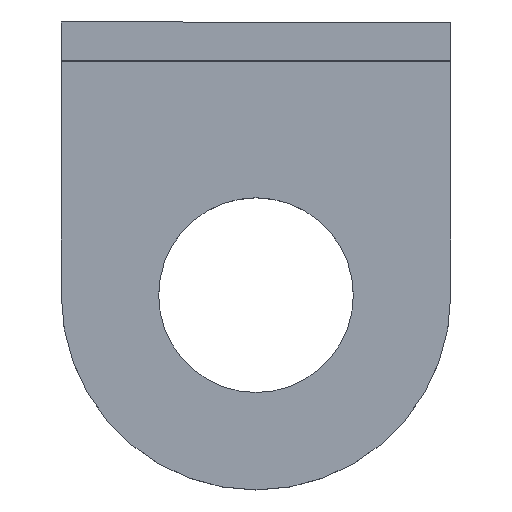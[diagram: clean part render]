
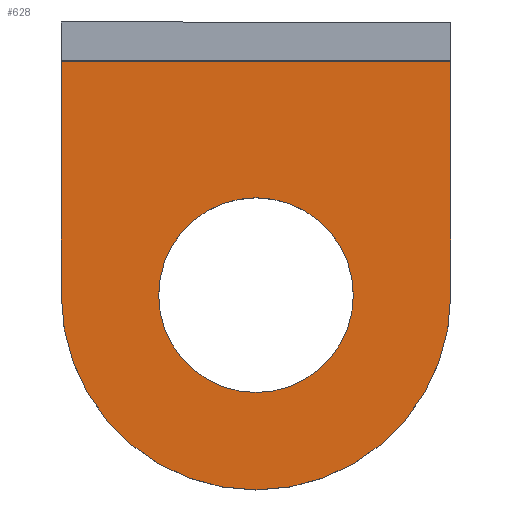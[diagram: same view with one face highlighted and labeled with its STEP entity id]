
A CAD part, top view. The second image highlights one B-rep face of the part: STEP entity #628.
In plain terms, the highlighted planar face has unit normal (0, 0, 1).
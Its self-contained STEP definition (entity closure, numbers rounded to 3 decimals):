
#132=CARTESIAN_POINT('',(-14.712,-53.306,18.75));
#133=VERTEX_POINT('',#132);
#149=CARTESIAN_POINT('',(-4.712,-43.306,18.75));
#150=VERTEX_POINT('',#149);
#157=CARTESIAN_POINT('',(-14.712,-43.306,18.75));
#158=DIRECTION('',(0.0,0.0,1.0));
#159=DIRECTION('',(0.0,-1.0,0.0));
#160=AXIS2_PLACEMENT_3D('',#157,#158,#159);
#161=CIRCLE('',#160,10.0);
#162=EDGE_CURVE('',#133,#150,#161,.T.);
#172=CARTESIAN_POINT('',(-14.712,-48.306,18.75));
#173=VERTEX_POINT('',#172);
#182=CARTESIAN_POINT('',(-14.712,-38.306,18.75));
#183=VERTEX_POINT('',#182);
#184=CARTESIAN_POINT('',(-14.712,-43.306,18.75));
#185=DIRECTION('',(0.0,0.0,-1.0));
#186=DIRECTION('',(0.0,-1.0,0.0));
#187=AXIS2_PLACEMENT_3D('',#184,#185,#186);
#188=CIRCLE('',#187,5.0);
#189=EDGE_CURVE('',#183,#173,#188,.T.);
#348=CARTESIAN_POINT('',(-4.712,-31.306,18.75));
#349=VERTEX_POINT('',#348);
#350=CARTESIAN_POINT('',(-24.712,-31.306,18.75));
#351=VERTEX_POINT('',#350);
#352=CARTESIAN_POINT('',(-4.712,-31.306,18.75));
#353=DIRECTION('',(-1.0,0.0,0.0));
#354=VECTOR('',#353,20.);
#355=LINE('',#352,#354);
#356=EDGE_CURVE('',#349,#351,#355,.T.);
#535=CARTESIAN_POINT('',(-14.712,-43.306,18.75));
#536=DIRECTION('',(0.0,0.0,-1.0));
#537=DIRECTION('',(0.0,-1.0,0.0));
#538=AXIS2_PLACEMENT_3D('',#535,#536,#537);
#539=CIRCLE('',#538,5.0);
#540=EDGE_CURVE('',#173,#183,#539,.T.);
#558=CARTESIAN_POINT('',(-24.712,-43.306,18.75));
#559=VERTEX_POINT('',#558);
#566=CARTESIAN_POINT('',(-24.712,-31.306,18.75));
#567=DIRECTION('',(0.0,-1.0,0.0));
#568=VECTOR('',#567,12.0);
#569=LINE('',#566,#568);
#570=EDGE_CURVE('',#351,#559,#569,.T.);
#597=CARTESIAN_POINT('',(-4.712,-43.306,18.75));
#598=DIRECTION('',(0.0,1.0,0.0));
#599=VECTOR('',#598,12.);
#600=LINE('',#597,#599);
#601=EDGE_CURVE('',#150,#349,#600,.T.);
#606=CARTESIAN_POINT('',(-14.712,-43.306,18.75));
#607=DIRECTION('',(0.0,0.0,1.0));
#608=DIRECTION('',(0.0,-1.0,0.0));
#609=AXIS2_PLACEMENT_3D('',#606,#607,#608);
#610=PLANE('',#609);
#611=CARTESIAN_POINT('',(-14.712,-43.306,18.75));
#612=DIRECTION('',(0.0,0.0,1.0));
#613=DIRECTION('',(0.0,-1.0,0.0));
#614=AXIS2_PLACEMENT_3D('',#611,#612,#613);
#615=CIRCLE('',#614,10.0);
#616=EDGE_CURVE('',#559,#133,#615,.T.);
#617=ORIENTED_EDGE('',*,*,#616,.T.);
#618=ORIENTED_EDGE('',*,*,#162,.T.);
#619=ORIENTED_EDGE('',*,*,#601,.T.);
#620=ORIENTED_EDGE('',*,*,#356,.T.);
#621=ORIENTED_EDGE('',*,*,#570,.T.);
#622=EDGE_LOOP('',(#617,#618,#619,#620,#621));
#623=FACE_OUTER_BOUND('',#622,.T.);
#624=ORIENTED_EDGE('',*,*,#540,.T.);
#625=ORIENTED_EDGE('',*,*,#189,.T.);
#626=EDGE_LOOP('',(#624,#625));
#627=FACE_BOUND('',#626,.T.);
#628=ADVANCED_FACE('',(#623,#627),#610,.T.);
